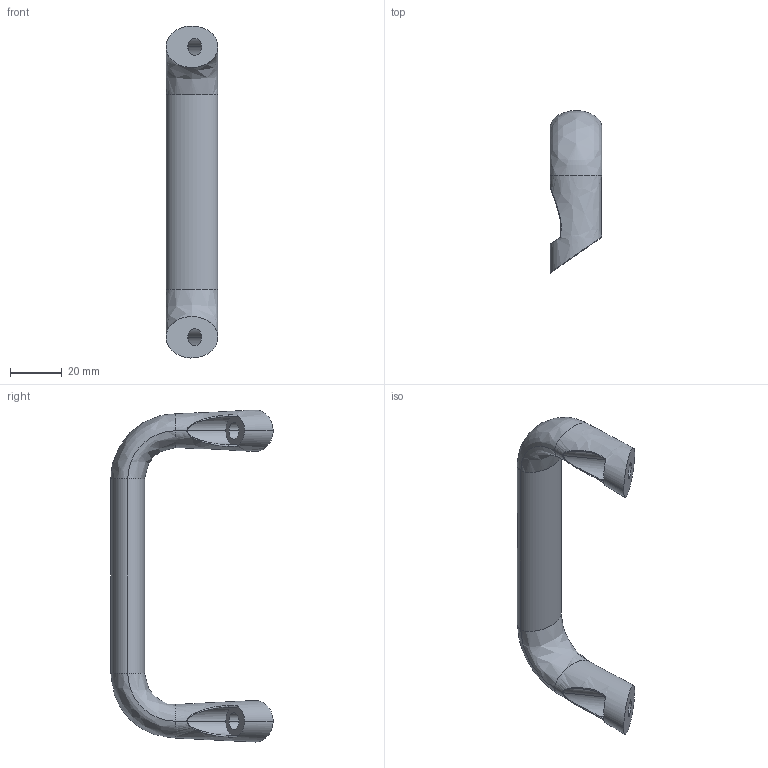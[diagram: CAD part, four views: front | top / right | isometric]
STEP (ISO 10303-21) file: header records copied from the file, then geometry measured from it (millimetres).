
FILE_DESCRIPTION (( 'STEP AP214' ), '1' );
FILE_NAME ('HDL2-0635-6.STEP', '2014-10-15T05:13:59', ( '' ), ( '' ), 'SwSTEP 2.0', 'SolidWorks 2014', '' );
FILE_SCHEMA (( 'AUTOMOTIVE_DESIGN' ));
Length unit declared in the file: millimetre
Products named in the file (1): HDL2-0635-6
Bounding box: 20 x 62.54 x 127.98 mm (x, y, z)
Volume: 38754.9 mm3; surface area: 11332.6 mm2
Topology: 1 solids, 1 shells, 32 faces, 101 edges, 68 vertices
Faces by surface type: bspline 16, cylinder 8, plane 8
Entity records: 2787 total; most frequent: CARTESIAN_POINT 2036, ORIENTED_EDGE 196, EDGE_CURVE 98, DIRECTION 90, VERTEX_POINT 68, B_SPLINE_CURVE_WITH_KNOTS 48, AXIS2_PLACEMENT_3D 37, EDGE_LOOP 36
